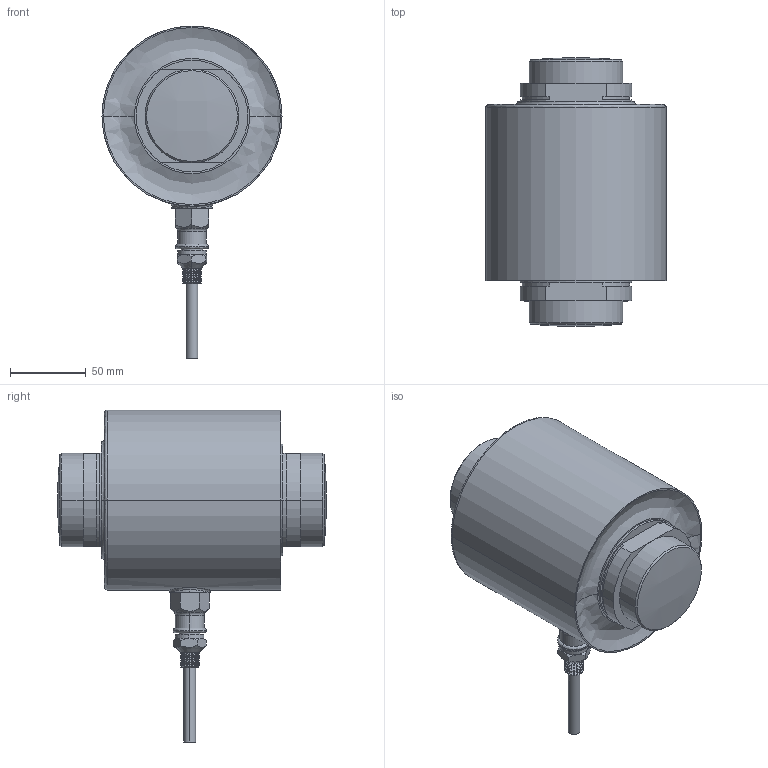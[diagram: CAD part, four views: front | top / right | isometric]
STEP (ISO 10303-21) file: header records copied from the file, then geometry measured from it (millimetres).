
FILE_DESCRIPTION (( 'STEP AP203' ), '1' );
FILE_NAME ('Load_Sensor_HIRCH03_220KLB.STEP', '2022-06-01T21:23:50', ( '' ), ( '' ), 'SwSTEP 2.0', 'SolidWorks 2020', '' );
FILE_SCHEMA (( 'CONFIG_CONTROL_DESIGN' ));
Length unit declared in the file: millimetre
Products named in the file (9): RC3-100T-C3; Cable Adapter; Hardy Cable Assembly; Socket Set Screw Cup Point_AI_SSCUPSKT 0.5-20x0.5-HX-C; Adapter Nut; RC3-100T; Cable; Load_Sensor_HIRCH03_220KLB
Assembly tree (8 placements, depth 5):
  Load_Sensor_HIRCH03_220KLB
    RC3-100T-C3
      RC3-100T
      Hardy Cable Assembly
        Adapter Nut
          Socket Set Screw Cup Point_AI_SSCUPSKT 0.5-20x0.5-HX-C
          Adapter Nut
        Cable
        Cable Adapter
Bounding box: 119 x 177.3 x 219.32 mm (x, y, z)
Volume: 1501280.8 mm3; surface area: 87639.7 mm2
Topology: 5 solids, 5 shells, 183 faces, 413 edges, 248 vertices
Faces by surface type: cylinder 66, cone 56, plane 42, bspline 19
Entity records: 7302 total; most frequent: CARTESIAN_POINT 2244, DIRECTION 932, ORIENTED_EDGE 826, EDGE_CURVE 413, AXIS2_PLACEMENT_3D 380, VERTEX_POINT 248, CIRCLE 202, EDGE_LOOP 197
